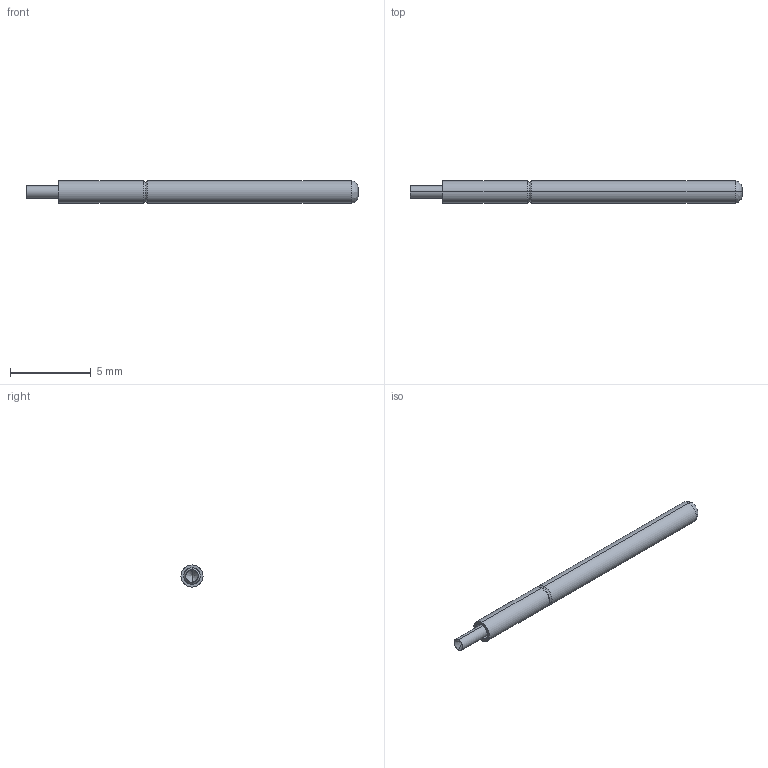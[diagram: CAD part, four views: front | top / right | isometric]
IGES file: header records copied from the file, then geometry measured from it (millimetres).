
Start section: SolidWorks IGES file using analytic representation for surfaces
Global section: file name: Z:\probe solid model mockups\Solidworks models\IGES Files\EPA-2\EPA-2G30 Full.IGS; native system: SolidWorks 2006 by SolidWorks Corporation; preprocessor: SolidWorks 2006 by SolidWorks Corporation; author: tsakatani; date: 071220.161916; units: inch
Bounding box: 20.57 x 1.37 x 1.37 mm (x, y, z)
Surface area: 94.1 mm2 (no closed solid volume)
Topology: 0 solids, 0 shells, 20 faces, 120 edges, 118 vertices
Faces by surface type: revolution 12, bspline 8
